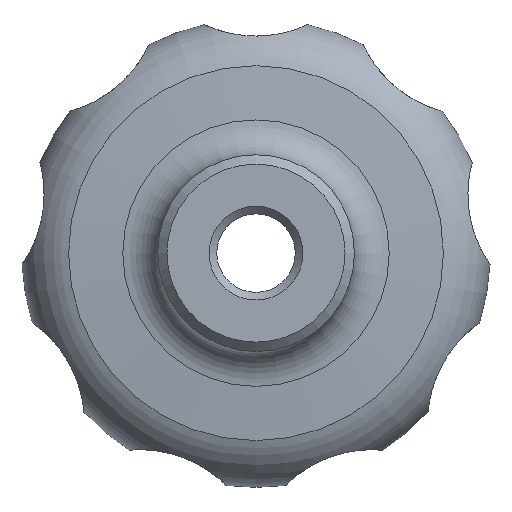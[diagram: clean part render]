
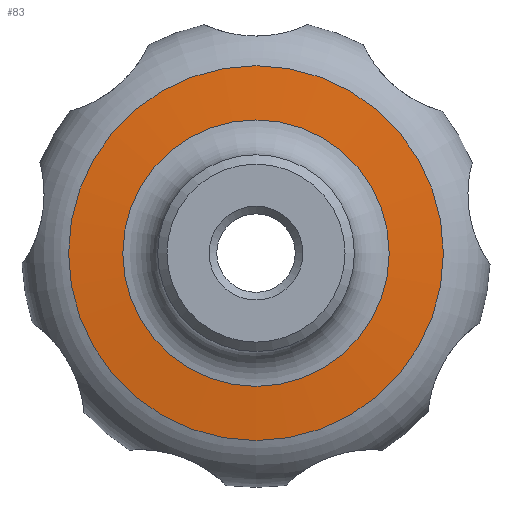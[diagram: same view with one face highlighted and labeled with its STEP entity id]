
A CAD part, front view. The second image highlights one B-rep face of the part: STEP entity #83.
In plain terms, the highlighted spherical face has radius 200.5 mm.
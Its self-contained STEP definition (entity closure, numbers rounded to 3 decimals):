
#83 = ADVANCED_FACE( '', ( #116, #117 ), #118, .T. );
#116 = FACE_OUTER_BOUND( '', #177, .T. );
#117 = FACE_OUTER_BOUND( '', #178, .T. );
#118 = SPHERICAL_SURFACE( '', #179, 200.5 );
#177 = EDGE_LOOP( '', ( #254 ) );
#178 = EDGE_LOOP( '', ( #255 ) );
#179 = AXIS2_PLACEMENT_3D( '', #256, #257, #258 );
#254 = ORIENTED_EDGE( '', *, *, #328, .T. );
#255 = ORIENTED_EDGE( '', *, *, #327, .F. );
#256 = CARTESIAN_POINT( '', ( 0., 217.5, 0. ) );
#257 = DIRECTION( '', ( 0., -1., 0. ) );
#258 = DIRECTION( '', ( 1., 0., 0. ) );
#327 = EDGE_CURVE( '', #356, #356, #357, .T. );
#328 = EDGE_CURVE( '', #358, #358, #359, .T. );
#356 = VERTEX_POINT( '', #714 );
#357 = CIRCLE( '', #715, 14.216 );
#358 = VERTEX_POINT( '', #716 );
#359 = CIRCLE( '', #717, 20. );
#714 = CARTESIAN_POINT( '', ( 0., 17.505, -14.216 ) );
#715 = AXIS2_PLACEMENT_3D( '', #1167, #1168, #1169 );
#716 = CARTESIAN_POINT( '', ( 0., 18., -20. ) );
#717 = AXIS2_PLACEMENT_3D( '', #1170, #1171, #1172 );
#1167 = CARTESIAN_POINT( '', ( 0., 17.505, 0. ) );
#1168 = DIRECTION( '', ( 0., -1., 0. ) );
#1169 = DIRECTION( '', ( 0., 0., -1. ) );
#1170 = CARTESIAN_POINT( '', ( 0., 18., 0. ) );
#1171 = DIRECTION( '', ( 0., -1., 0. ) );
#1172 = DIRECTION( '', ( 0., 0., -1. ) );
